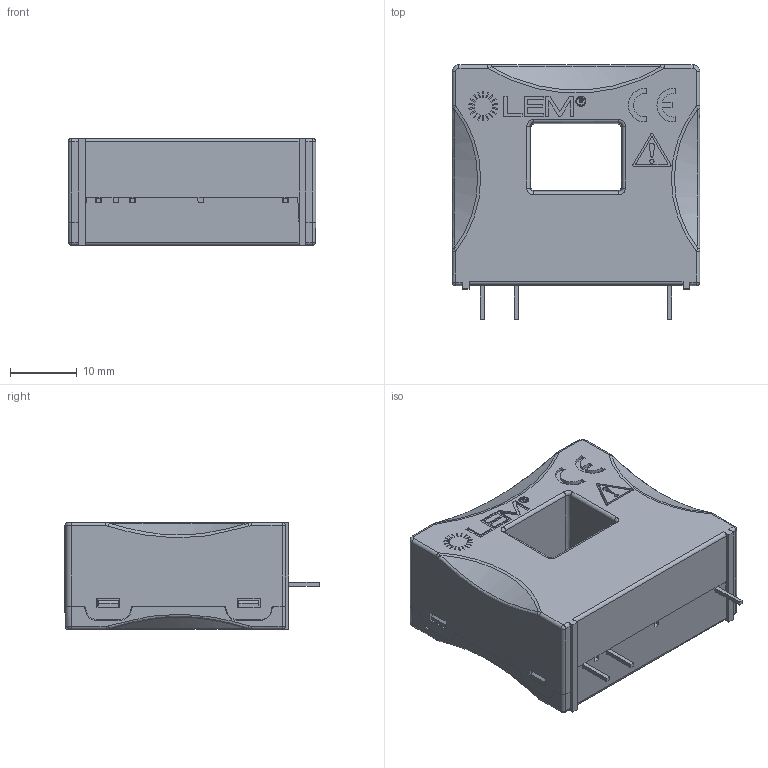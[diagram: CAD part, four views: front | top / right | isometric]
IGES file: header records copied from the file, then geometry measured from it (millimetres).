
Start section: Elysium IGES Interface
Global section: file name: E:\Sorting data\LA 130-150\Blackbox\LA150-P BLACKBOX.igs; native system: Creo Elements/Direct Modeling 17.0C  05-Feb-2011; preprocessor: Creo Element/Direct IGES_3D V2.2; author: Unknown; organization: Unknown; date: 20120626.102151; units: millimetre
Bounding box: 37 x 38 x 16 mm (x, y, z)
Volume: 16767.3 mm3; surface area: 6813.7 mm2
Topology: 1 solids, 1 shells, 582 faces, 1530 edges, 978 vertices
Faces by surface type: bspline 582
